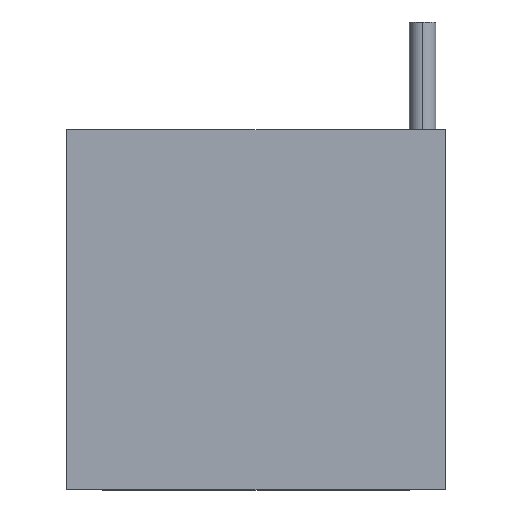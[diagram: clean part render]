
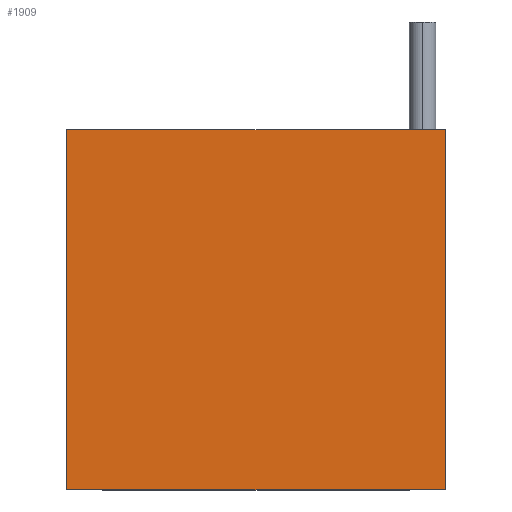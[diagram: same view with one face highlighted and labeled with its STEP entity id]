
A CAD part, top view. The second image highlights one B-rep face of the part: STEP entity #1909.
In plain terms, the highlighted planar face has unit normal (0, 0, 1).
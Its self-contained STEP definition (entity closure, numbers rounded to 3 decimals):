
#17 = ORIENTED_EDGE ( 'NONE', *, *, #2076, .T. ) ;
#107 = CARTESIAN_POINT ( 'NONE',  ( 50., 0., 10.6 ) ) ;
#139 = VERTEX_POINT ( 'NONE', #732 ) ;
#148 = DIRECTION ( 'NONE',  ( 0., 1., 0. ) ) ;
#231 = CARTESIAN_POINT ( 'NONE',  ( 50., 95.5, 10.6 ) ) ;
#253 = VERTEX_POINT ( 'NONE', #416 ) ;
#266 = DIRECTION ( 'NONE',  ( 0., 0., -1. ) ) ;
#267 = VERTEX_POINT ( 'NONE', #231 ) ;
#388 = LINE ( 'NONE', #602, #451 ) ;
#416 = CARTESIAN_POINT ( 'NONE',  ( -50., 0.5, 10.6 ) ) ;
#451 = VECTOR ( 'NONE', #798, 1000. ) ;
#460 = PLANE ( 'NONE',  #794 ) ;
#602 = CARTESIAN_POINT ( 'NONE',  ( 62.02, 95.5, 10.6 ) ) ;
#646 = LINE ( 'NONE', #1271, #2342 ) ;
#661 = EDGE_CURVE ( 'NONE', #267, #1164, #388, .T. ) ;
#679 = CARTESIAN_POINT ( 'NONE',  ( -50., 48., 10.6 ) ) ;
#696 = ORIENTED_EDGE ( 'NONE', *, *, #1696, .T. ) ;
#700 = FACE_OUTER_BOUND ( 'NONE', #1710, .T. ) ;
#732 = CARTESIAN_POINT ( 'NONE',  ( 50., 0.5, 10.6 ) ) ;
#794 = AXIS2_PLACEMENT_3D ( 'NONE', #107, #266, #1510 ) ;
#798 = DIRECTION ( 'NONE',  ( -1., 0., 0. ) ) ;
#910 = VECTOR ( 'NONE', #1108, 1000. ) ;
#1046 = ORIENTED_EDGE ( 'NONE', *, *, #661, .T. ) ;
#1108 = DIRECTION ( 'NONE',  ( 0., 1., 0. ) ) ;
#1164 = VERTEX_POINT ( 'NONE', #2040 ) ;
#1271 = CARTESIAN_POINT ( 'NONE',  ( 64.405, 0.5, 10.6 ) ) ;
#1278 = CARTESIAN_POINT ( 'NONE',  ( 50., 48., 10.6 ) ) ;
#1349 = EDGE_CURVE ( 'NONE', #253, #1164, #1458, .T. ) ;
#1458 = LINE ( 'NONE', #679, #2214 ) ;
#1510 = DIRECTION ( 'NONE',  ( -1., 0., 0. ) ) ;
#1610 = LINE ( 'NONE', #1278, #910 ) ;
#1696 = EDGE_CURVE ( 'NONE', #253, #139, #646, .T. ) ;
#1710 = EDGE_LOOP ( 'NONE', ( #2250, #696, #17, #1046 ) ) ;
#1812 = DIRECTION ( 'NONE',  ( 1., 0., 0. ) ) ;
#1909 = ADVANCED_FACE ( 'NONE', ( #700 ), #460, .F. ) ;
#2040 = CARTESIAN_POINT ( 'NONE',  ( -50., 95.5, 10.6 ) ) ;
#2076 = EDGE_CURVE ( 'NONE', #139, #267, #1610, .T. ) ;
#2214 = VECTOR ( 'NONE', #148, 1000. ) ;
#2250 = ORIENTED_EDGE ( 'NONE', *, *, #1349, .F. ) ;
#2342 = VECTOR ( 'NONE', #1812, 1000. ) ;
